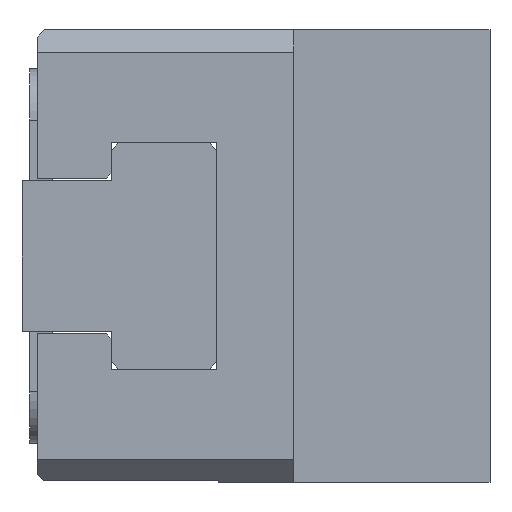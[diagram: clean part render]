
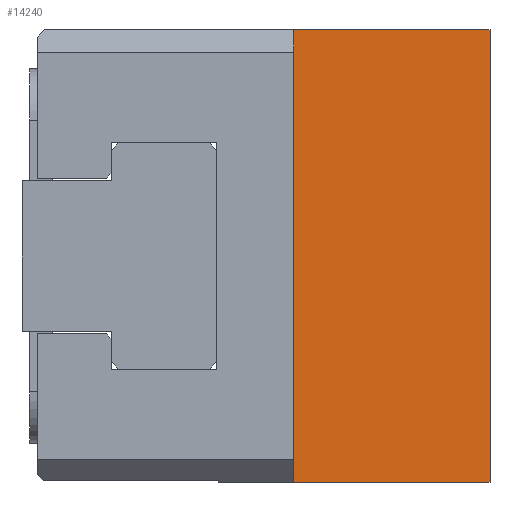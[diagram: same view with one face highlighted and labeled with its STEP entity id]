
A CAD part, left-side view. The second image highlights one B-rep face of the part: STEP entity #14240.
In plain terms, the highlighted planar face has unit normal (-1, 0, 0).
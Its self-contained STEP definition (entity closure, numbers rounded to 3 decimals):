
#169 = VERTEX_POINT ( 'NONE', #9642 ) ;
#1527 = EDGE_LOOP ( 'NONE', ( #14729, #10549, #4254, #4212 ) ) ;
#1873 = EDGE_CURVE ( 'NONE', #3563, #2461, #7057, .T. ) ;
#2115 = CARTESIAN_POINT ( 'NONE',  ( -21., 13., -15. ) ) ;
#2195 = PLANE ( 'NONE',  #2991 ) ;
#2461 = VERTEX_POINT ( 'NONE', #6464 ) ;
#2991 = AXIS2_PLACEMENT_3D ( 'NONE', #10232, #5674, #13678 ) ;
#3563 = VERTEX_POINT ( 'NONE', #2115 ) ;
#3601 = DIRECTION ( 'NONE',  ( 0., 0., 1. ) ) ;
#4212 = ORIENTED_EDGE ( 'NONE', *, *, #14284, .T. ) ;
#4254 = ORIENTED_EDGE ( 'NONE', *, *, #1873, .T. ) ;
#4780 = FACE_OUTER_BOUND ( 'NONE', #1527, .T. ) ;
#5674 = DIRECTION ( 'NONE',  ( -1., 0., 0. ) ) ;
#5863 = VERTEX_POINT ( 'NONE', #10140 ) ;
#6073 = VECTOR ( 'NONE', #10010, 1000. ) ;
#6464 = CARTESIAN_POINT ( 'NONE',  ( -21., 0., -15. ) ) ;
#6872 = DIRECTION ( 'NONE',  ( 0., 0., 1. ) ) ;
#6994 = CARTESIAN_POINT ( 'NONE',  ( -21., 13., 15. ) ) ;
#7057 = LINE ( 'NONE', #14064, #12400 ) ;
#7463 = LINE ( 'NONE', #12587, #10132 ) ;
#8002 = VECTOR ( 'NONE', #3601, 1000. ) ;
#8158 = EDGE_CURVE ( 'NONE', #169, #5863, #12127, .T. ) ;
#8848 = CARTESIAN_POINT ( 'NONE',  ( -21., 30., 15. ) ) ;
#9642 = CARTESIAN_POINT ( 'NONE',  ( -21., 0., 15. ) ) ;
#9939 = EDGE_CURVE ( 'NONE', #3563, #5863, #11024, .T. ) ;
#10010 = DIRECTION ( 'NONE',  ( 0., 1., 0. ) ) ;
#10132 = VECTOR ( 'NONE', #6872, 1000. ) ;
#10140 = CARTESIAN_POINT ( 'NONE',  ( -21., 13., 15. ) ) ;
#10232 = CARTESIAN_POINT ( 'NONE',  ( -21., 0., 15. ) ) ;
#10549 = ORIENTED_EDGE ( 'NONE', *, *, #9939, .F. ) ;
#11024 = LINE ( 'NONE', #6994, #8002 ) ;
#12127 = LINE ( 'NONE', #8848, #6073 ) ;
#12400 = VECTOR ( 'NONE', #12916, 1000. ) ;
#12587 = CARTESIAN_POINT ( 'NONE',  ( -21., 0., 15. ) ) ;
#12916 = DIRECTION ( 'NONE',  ( 0., -1., 0. ) ) ;
#13678 = DIRECTION ( 'NONE',  ( 0., 0., 1. ) ) ;
#14064 = CARTESIAN_POINT ( 'NONE',  ( -21., 0., -15. ) ) ;
#14240 = ADVANCED_FACE ( 'NONE', ( #4780 ), #2195, .T. ) ;
#14284 = EDGE_CURVE ( 'NONE', #2461, #169, #7463, .T. ) ;
#14729 = ORIENTED_EDGE ( 'NONE', *, *, #8158, .T. ) ;
